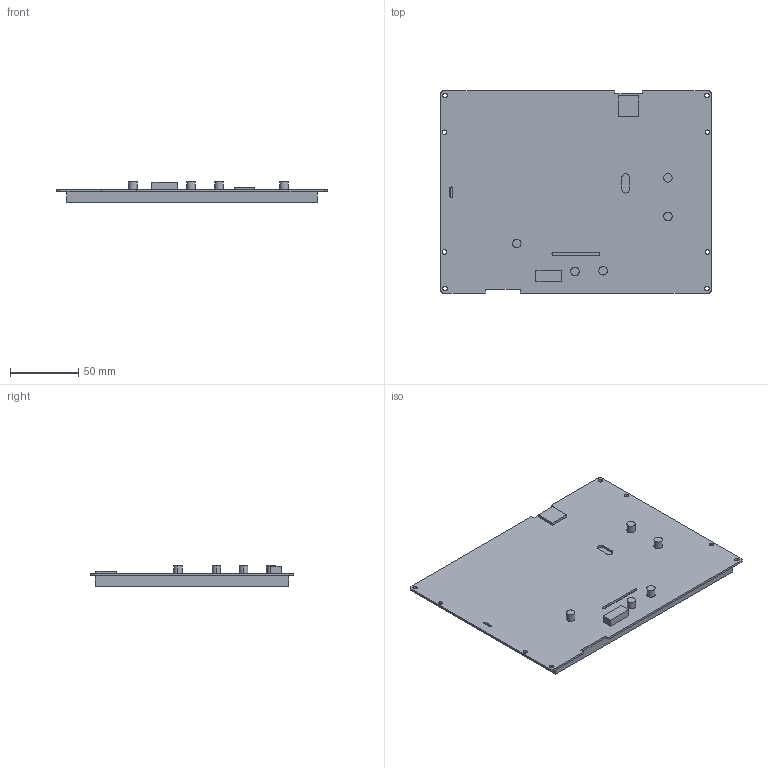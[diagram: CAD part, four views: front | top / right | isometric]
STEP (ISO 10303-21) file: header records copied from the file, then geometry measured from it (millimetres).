
FILE_DESCRIPTION((''),'2;1');
FILE_NAME('DMT80600Y080-02NR','2024-09-09T',('Administrator'),(''),'PRO/ENGINEER BY PARAMETRIC TECHNOLOGY CORPORATION, 2011310','PRO/ENGINEER BY PARAMETRIC TECHNOLOGY CORPORATION, 2011310','');
FILE_SCHEMA(('CONFIG_CONTROL_DESIGN','SHAPE_APPEARANCE_LAYERS_GROUPS'));
Products named in the file (1): DMT80600Y080-02NR
Bounding box: 199.39 x 148.84 x 14.9 mm (x, y, z)
Volume: 236862.3 mm3; surface area: 66531 mm2
Topology: 1 solids, 1 shells, 84 faces, 10376 edges, 17321 vertices
Faces by surface type: plane 48, cylinder 36
Entity records: 87823 total; most frequent: DIRECTION 13779, CARTESIAN_POINT 10603, PRESENTATION_STYLE_ASSIGNMENT 10383, STYLED_ITEM 10383, CURVE_STYLE 10378, TRIMMED_CURVE 10162, VECTOR 7143, LINE 7143
